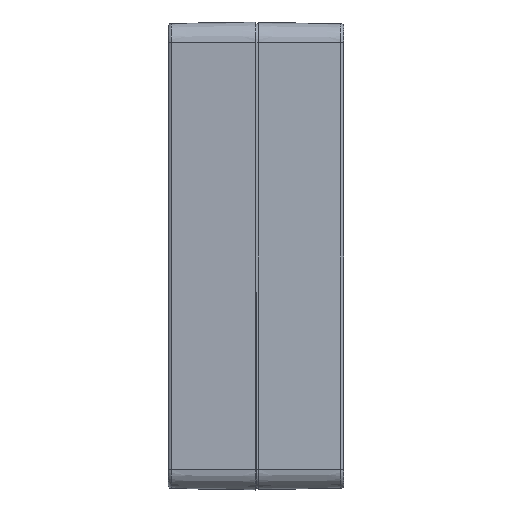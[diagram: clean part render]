
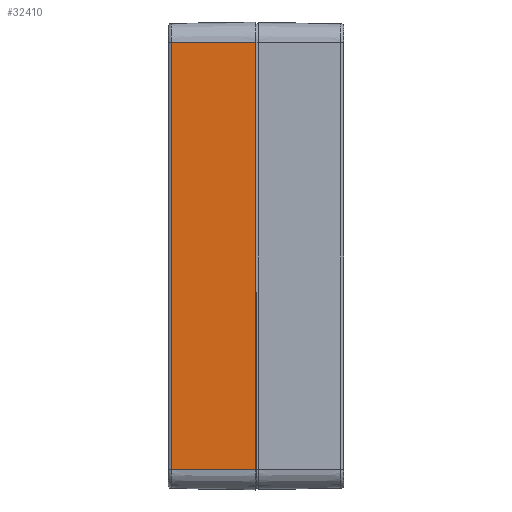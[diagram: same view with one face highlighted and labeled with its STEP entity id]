
A CAD part, left-side view. The second image highlights one B-rep face of the part: STEP entity #32410.
In plain terms, the highlighted planar face has unit normal (-1, 0.018, 0).
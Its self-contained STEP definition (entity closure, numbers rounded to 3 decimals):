
#1359 = EDGE_CURVE ( 'NONE', #31041, #43624, #45836, .T. ) ;
#2299 = LINE ( 'NONE', #6164, #29612 ) ;
#4626 = LINE ( 'NONE', #44414, #9480 ) ;
#5815 = DIRECTION ( 'NONE',  ( -0.017, -1., 0. ) ) ;
#6164 = CARTESIAN_POINT ( 'NONE',  ( -79.448, 28.772, -72.95 ) ) ;
#7890 = VECTOR ( 'NONE', #5815, 1000. ) ;
#9316 = LINE ( 'NONE', #23563, #17518 ) ;
#9480 = VECTOR ( 'NONE', #25849, 1000. ) ;
#9881 = CARTESIAN_POINT ( 'NONE',  ( -79.95, 0., -72.95 ) ) ;
#11314 = CARTESIAN_POINT ( 'NONE',  ( -79.448, 28.772, -72.95 ) ) ;
#12339 = CARTESIAN_POINT ( 'NONE',  ( -79.95, 0., -72.95 ) ) ;
#14453 = ORIENTED_EDGE ( 'NONE', *, *, #20420, .F. ) ;
#15148 = CARTESIAN_POINT ( 'NONE',  ( -79.448, 28.772, 72.95 ) ) ;
#17518 = VECTOR ( 'NONE', #26710, 1000. ) ;
#18807 = ORIENTED_EDGE ( 'NONE', *, *, #38862, .T. ) ;
#20420 = EDGE_CURVE ( 'NONE', #28147, #35672, #9316, .T. ) ;
#23563 = CARTESIAN_POINT ( 'NONE',  ( -79.95, 0., 72.95 ) ) ;
#24182 = EDGE_LOOP ( 'NONE', ( #14453, #18807, #39537, #42283 ) ) ;
#25411 = EDGE_CURVE ( 'NONE', #43624, #35672, #4626, .T. ) ;
#25849 = DIRECTION ( 'NONE',  ( 0., 0., 1. ) ) ;
#26710 = DIRECTION ( 'NONE',  ( -0.017, -1., 0. ) ) ;
#27321 = AXIS2_PLACEMENT_3D ( 'NONE', #9881, #41965, #42211 ) ;
#27511 = CARTESIAN_POINT ( 'NONE',  ( -79.95, 0., -72.95 ) ) ;
#28147 = VERTEX_POINT ( 'NONE', #15148 ) ;
#29612 = VECTOR ( 'NONE', #42804, 1000. ) ;
#31041 = VERTEX_POINT ( 'NONE', #11314 ) ;
#31356 = PLANE ( 'NONE',  #27321 ) ;
#32410 = ADVANCED_FACE ( 'NONE', ( #39077 ), #31356, .T. ) ;
#35672 = VERTEX_POINT ( 'NONE', #42053 ) ;
#38862 = EDGE_CURVE ( 'NONE', #28147, #31041, #2299, .T. ) ;
#39077 = FACE_OUTER_BOUND ( 'NONE', #24182, .T. ) ;
#39537 = ORIENTED_EDGE ( 'NONE', *, *, #1359, .T. ) ;
#41965 = DIRECTION ( 'NONE',  ( -1., 0.017, 0. ) ) ;
#42053 = CARTESIAN_POINT ( 'NONE',  ( -79.95, 0., 72.95 ) ) ;
#42211 = DIRECTION ( 'NONE',  ( -0.017, -1., 0. ) ) ;
#42283 = ORIENTED_EDGE ( 'NONE', *, *, #25411, .T. ) ;
#42804 = DIRECTION ( 'NONE',  ( 0., 0., -1. ) ) ;
#43624 = VERTEX_POINT ( 'NONE', #12339 ) ;
#44414 = CARTESIAN_POINT ( 'NONE',  ( -79.95, 0., -72.95 ) ) ;
#45836 = LINE ( 'NONE', #27511, #7890 ) ;
